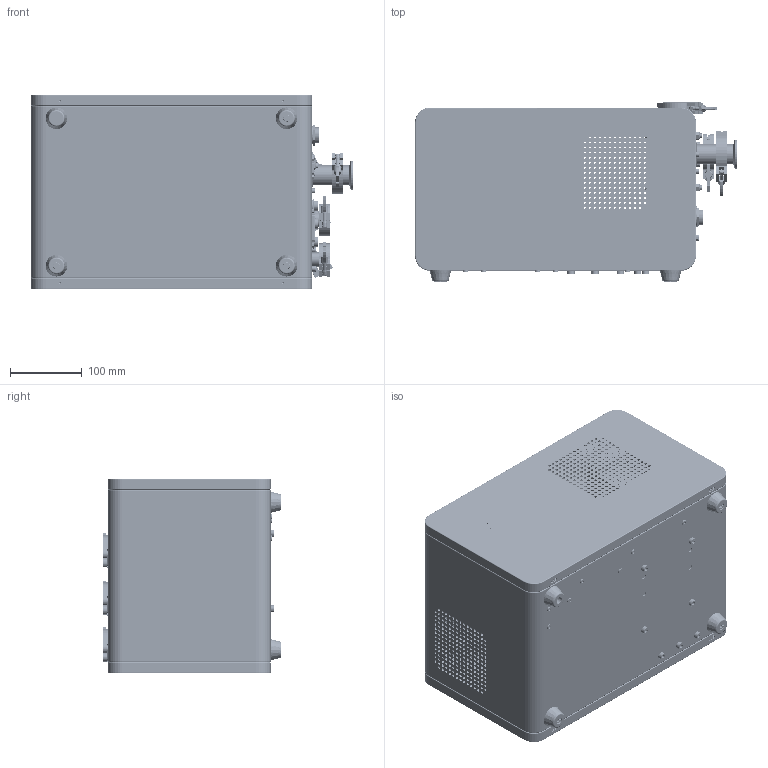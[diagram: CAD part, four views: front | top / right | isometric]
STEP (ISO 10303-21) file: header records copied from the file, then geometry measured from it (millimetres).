
FILE_DESCRIPTION (( 'STEP AP203' ), '1' );
FILE_NAME ('NY2504.00-NLD200.STEP', '2026-08-28T09:00:50', ( '' ), ( '' ), 'SwSTEP 2.0', 'SolidWorks 2024', '' );
FILE_SCHEMA (( 'CONFIG_CONTROL_DESIGN' ));
Products named in the file (1): NY2504.00-NLD200
Bounding box: 447 x 248.57 x 270.01 mm (x, y, z)
Volume: 2017487.9 mm3; surface area: 1502733.9 mm2
Topology: 249 solids, 255 shells, 13138 faces, 35336 edges, 23034 vertices
Faces by surface type: plane 6514, cylinder 4798, bspline 1103, cone 384, torus 337, sphere 2
Entity records: 481861 total; most frequent: CARTESIAN_POINT 148781, ORIENTED_EDGE 70492, DIRECTION 66592, EDGE_CURVE 35246, VERTEX_POINT 23034, AXIS2_PLACEMENT_3D 22458, LINE 21676, VECTOR 21676
